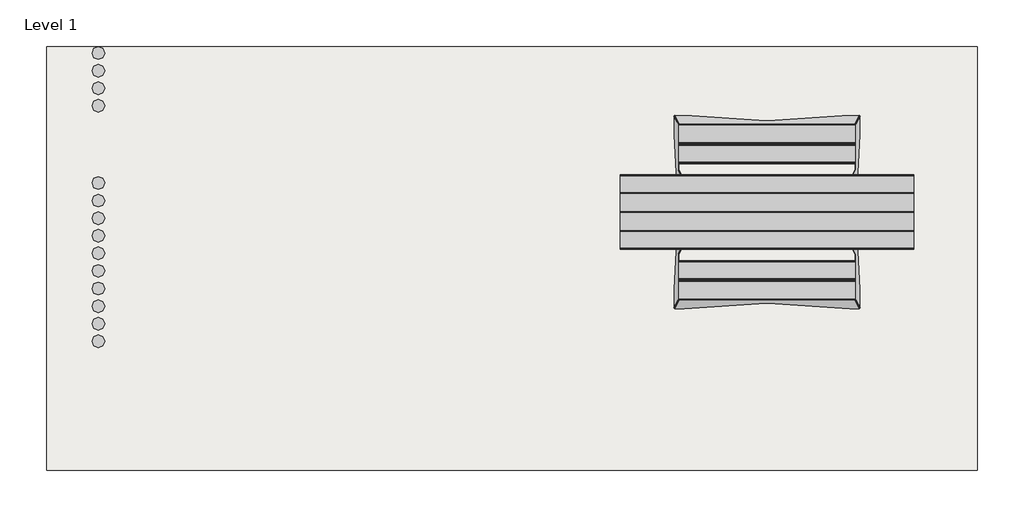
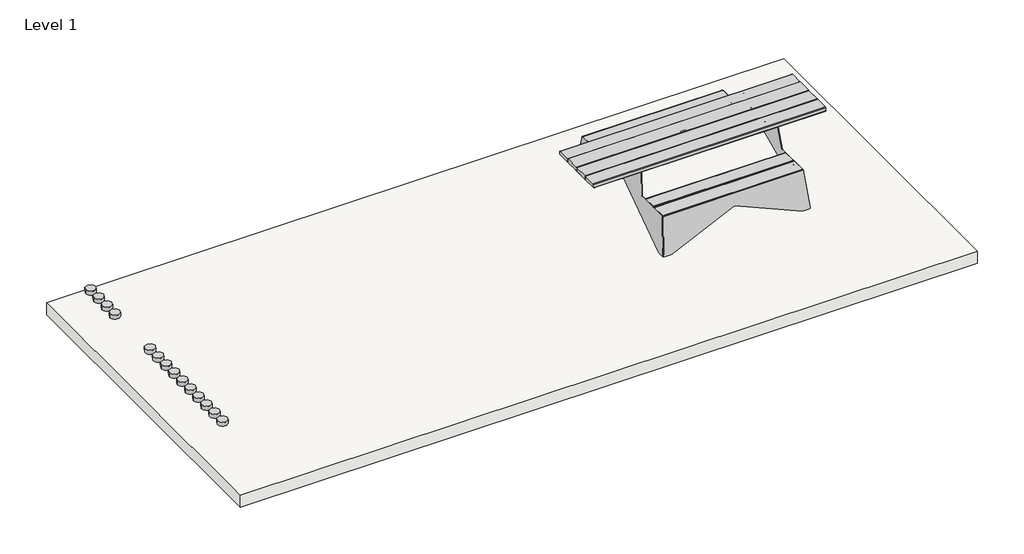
# One storey, incomplete: 14 proxies, 1 furniture element, 1 slab.
"""IFC4 building model written with IfcOpenShell, lengths in millimetres."""

from ifc_helpers import new_model, si_unit, frame, origin, place, context, project, spatial, polyline, outline, extrude, transform, mapped, element, save
from components import materialmodel_materialmodel_66f02381, furniture_01230732

model = new_model("IFC4")

# Units and contexts
model_context = context("Model", 3, world=origin())
ifc_project = project(units=[si_unit("LENGTHUNIT", "METRE", prefix="MILLI")], contexts=[model_context])

# Site, building, storey
site = spatial("IfcSite", under=ifc_project)
building = spatial("IfcBuilding", under=site)
storey = spatial("IfcBuildingStorey", under=building, Name="Level 1", Elevation=0.0)

# Proxies
placement = place(None, origin())
materialmodel_materialmodel_shape = materialmodel_materialmodel_66f02381(model_context)
element("IfcBuildingElementProxy", 1, Name="MaterialModel : MaterialModel", ObjectType="MaterialModel : MaterialModel", at=placement, inside=storey, context=model_context, shape_type="MappedRepresentation", body=[
    mapped(materialmodel_materialmodel_shape, transform((-5619.8812659, 4845.4051154, 0.0), x_axis=(1.0, 0.0, 0.0), y_axis=(0.0, 1.0, 0.0), z_axis=(0.0, 0.0, 1.0))),
])
element("IfcBuildingElementProxy", 2, Name="MaterialModel : MaterialModel", ObjectType="MaterialModel : MaterialModel", at=placement, inside=storey, context=model_context, shape_type="MappedRepresentation", body=[
    mapped(materialmodel_materialmodel_shape, transform((-5619.8812659, 4680.9606709, 0.0), x_axis=(1.0, 0.0, 0.0), y_axis=(0.0, 1.0, 0.0), z_axis=(0.0, 0.0, 1.0))),
])
element("IfcBuildingElementProxy", 3, Name="MaterialModel : MaterialModel", ObjectType="MaterialModel : MaterialModel", at=placement, inside=storey, context=model_context, shape_type="MappedRepresentation", body=[
    mapped(materialmodel_materialmodel_shape, transform((-5619.8812659, 4516.5162265, 0.0), x_axis=(1.0, 0.0, 0.0), y_axis=(0.0, 1.0, 0.0), z_axis=(0.0, 0.0, 1.0))),
])
element("IfcBuildingElementProxy", 4, Name="MaterialModel : MaterialModel", ObjectType="MaterialModel : MaterialModel", at=placement, inside=storey, context=model_context, shape_type="MappedRepresentation", body=[
    mapped(materialmodel_materialmodel_shape, transform((-5619.8812659, 4352.071782, 0.0), x_axis=(1.0, 0.0, 0.0), y_axis=(0.0, 1.0, 0.0), z_axis=(0.0, 0.0, 1.0))),
])
element("IfcBuildingElementProxy", 5, Name="MaterialModel : MaterialModel", ObjectType="MaterialModel : MaterialModel", at=placement, inside=storey, context=model_context, shape_type="MappedRepresentation", body=[
    mapped(materialmodel_materialmodel_shape, transform((-5619.8812659, 2151.1507902, 0.0), x_axis=(1.0, 0.0, 0.0), y_axis=(0.0, 1.0, 0.0), z_axis=(0.0, 0.0, 1.0))),
])
element("IfcBuildingElementProxy", 6, Name="MaterialModel : MaterialModel", ObjectType="MaterialModel : MaterialModel", at=placement, inside=storey, context=model_context, shape_type="MappedRepresentation", body=[
    mapped(materialmodel_materialmodel_shape, transform((-5619.8812659, 3631.1507902, 0.0), x_axis=(1.0, 0.0, 0.0), y_axis=(0.0, 1.0, 0.0), z_axis=(0.0, 0.0, 1.0))),
])
element("IfcBuildingElementProxy", 7, Name="MaterialModel : MaterialModel", ObjectType="MaterialModel : MaterialModel", at=placement, inside=storey, context=model_context, shape_type="MappedRepresentation", body=[
    mapped(materialmodel_materialmodel_shape, transform((-5619.8812659, 2973.3730124, 0.0), x_axis=(1.0, 0.0, 0.0), y_axis=(0.0, 1.0, 0.0), z_axis=(0.0, 0.0, 1.0))),
])
element("IfcBuildingElementProxy", 8, Name="MaterialModel : MaterialModel", ObjectType="MaterialModel : MaterialModel", at=placement, inside=storey, context=model_context, shape_type="MappedRepresentation", body=[
    mapped(materialmodel_materialmodel_shape, transform((-5619.8812659, 3466.7063457, 0.0), x_axis=(1.0, 0.0, 0.0), y_axis=(0.0, 1.0, 0.0), z_axis=(0.0, 0.0, 1.0))),
])
element("IfcBuildingElementProxy", 9, Name="MaterialModel : MaterialModel", ObjectType="MaterialModel : MaterialModel", at=placement, inside=storey, context=model_context, shape_type="MappedRepresentation", body=[
    mapped(materialmodel_materialmodel_shape, transform((-5619.8812659, 3302.2619013, 0.0), x_axis=(1.0, 0.0, 0.0), y_axis=(0.0, 1.0, 0.0), z_axis=(0.0, 0.0, 1.0))),
])
element("IfcBuildingElementProxy", 10, Name="MaterialModel : MaterialModel", ObjectType="MaterialModel : MaterialModel", at=placement, inside=storey, context=model_context, shape_type="MappedRepresentation", body=[
    mapped(materialmodel_materialmodel_shape, transform((-5619.8812659, 3137.8174568, 0.0), x_axis=(1.0, 0.0, 0.0), y_axis=(0.0, 1.0, 0.0), z_axis=(0.0, 0.0, 1.0))),
])
element("IfcBuildingElementProxy", 11, Name="MaterialModel : MaterialModel", ObjectType="MaterialModel : MaterialModel", at=placement, inside=storey, context=model_context, shape_type="MappedRepresentation", body=[
    mapped(materialmodel_materialmodel_shape, transform((-5619.8812659, 2808.9285679, 0.0), x_axis=(1.0, 0.0, 0.0), y_axis=(0.0, 1.0, 0.0), z_axis=(0.0, 0.0, 1.0))),
])
element("IfcBuildingElementProxy", 12, Name="MaterialModel : MaterialModel", ObjectType="MaterialModel : MaterialModel", at=placement, inside=storey, context=model_context, shape_type="MappedRepresentation", body=[
    mapped(materialmodel_materialmodel_shape, transform((-5619.8812659, 2644.4841235, 0.0), x_axis=(1.0, 0.0, 0.0), y_axis=(0.0, 1.0, 0.0), z_axis=(0.0, 0.0, 1.0))),
])
element("IfcBuildingElementProxy", 13, Name="MaterialModel : MaterialModel", ObjectType="MaterialModel : MaterialModel", at=placement, inside=storey, context=model_context, shape_type="MappedRepresentation", body=[
    mapped(materialmodel_materialmodel_shape, transform((-5619.8812659, 2480.0396791, 0.0), x_axis=(1.0, 0.0, 0.0), y_axis=(0.0, 1.0, 0.0), z_axis=(0.0, 0.0, 1.0))),
])
element("IfcBuildingElementProxy", 14, Name="MaterialModel : MaterialModel", ObjectType="MaterialModel : MaterialModel", at=placement, inside=storey, context=model_context, shape_type="MappedRepresentation", body=[
    mapped(materialmodel_materialmodel_shape, transform((-5619.8812659, 2315.5952346, 0.0), x_axis=(1.0, 0.0, 0.0), y_axis=(0.0, 1.0, 0.0), z_axis=(0.0, 0.0, 1.0))),
])

# Furniture
furniture_shape = furniture_01230732(model_context)
element("IfcFurniture", 15, ObjectType="Vestre - Stoop Picnic - 2422 : Vestre - Stoop Picnic - 2422", at=placement, inside=storey, context=model_context, shape_type="MappedRepresentation", body=[
    mapped(furniture_shape, transform((628.1777265, 3359.6708227, 0.0), x_axis=(1.0, 0.0, 0.0), y_axis=(0.0, 1.0, 0.0), z_axis=(0.0, 0.0, 1.0))),
])

# Slab
element("IfcSlab", 16, ObjectType="Generic 150mm", at=placement, inside=storey, context=model_context, shape_type="SweptSolid", body=[
    extrude(outline(polyline([(2595.204963, 4906.0981081), (2595.204963, 946.0981081), (-6104.795037, 946.0981081), (-6104.795037, 4906.0981081), (2595.204963, 4906.0981081)])), frame((0.0, 0.0, -150.0), z_axis=(0.0, 0.0, 1.0), x_axis=(1.0, 0.0, 0.0)), (0.0, 0.0, 1.0), 150.0),
])

save(model, "model.ifc")
